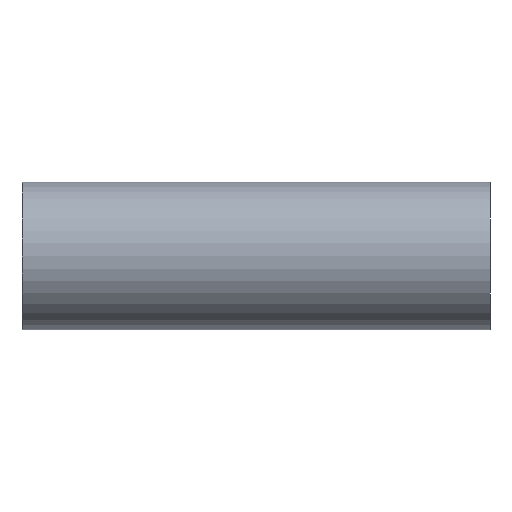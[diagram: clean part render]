
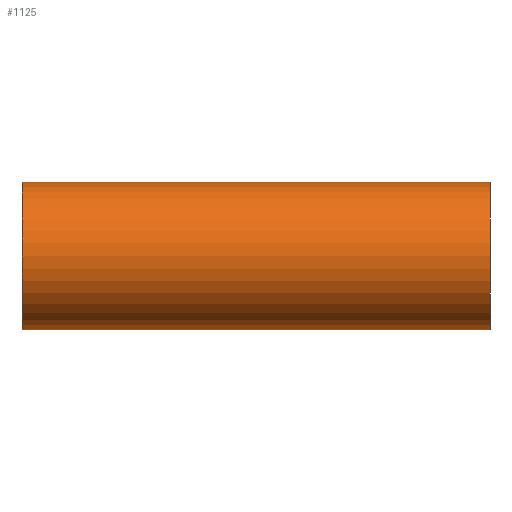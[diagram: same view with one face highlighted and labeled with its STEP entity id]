
A CAD part, front view. The second image highlights one B-rep face of the part: STEP entity #1125.
In plain terms, the highlighted cylindrical face has radius 19.05 mm (diameter 38.1 mm), a partial arc.
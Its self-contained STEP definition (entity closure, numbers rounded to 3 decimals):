
#39 = VECTOR ( 'NONE', #1269, 1000. ) ;
#96 = CIRCLE ( 'NONE', #443, 19.05 ) ;
#114 = DIRECTION ( 'NONE',  ( 1., 0., 0. ) ) ;
#159 = VERTEX_POINT ( 'NONE', #1072 ) ;
#168 = EDGE_CURVE ( 'NONE', #159, #1270, #1017, .T. ) ;
#184 = DIRECTION ( 'NONE',  ( 1., 0., 0. ) ) ;
#227 = CARTESIAN_POINT ( 'NONE',  ( -60.3, 0., 19.05 ) ) ;
#258 = EDGE_CURVE ( 'NONE', #271, #159, #1002, .T. ) ;
#271 = VERTEX_POINT ( 'NONE', #705 ) ;
#324 = DIRECTION ( 'NONE',  ( 0., 0., -1. ) ) ;
#345 = ORIENTED_EDGE ( 'NONE', *, *, #1305, .T. ) ;
#386 = LINE ( 'NONE', #227, #775 ) ;
#437 = CARTESIAN_POINT ( 'NONE',  ( 60.3, 0., 19.05 ) ) ;
#443 = AXIS2_PLACEMENT_3D ( 'NONE', #531, #184, #324 ) ;
#479 = CARTESIAN_POINT ( 'NONE',  ( -60.3, 0., -19.05 ) ) ;
#527 = EDGE_LOOP ( 'NONE', ( #760, #345, #1278, #788 ) ) ;
#531 = CARTESIAN_POINT ( 'NONE',  ( -60.3, 0., 0. ) ) ;
#624 = AXIS2_PLACEMENT_3D ( 'NONE', #697, #710, #691 ) ;
#667 = VERTEX_POINT ( 'NONE', #916 ) ;
#691 = DIRECTION ( 'NONE',  ( 0., 0., -1. ) ) ;
#697 = CARTESIAN_POINT ( 'NONE',  ( -60.3, 0., 0. ) ) ;
#705 = CARTESIAN_POINT ( 'NONE',  ( -60.3, 0., -19.05 ) ) ;
#710 = DIRECTION ( 'NONE',  ( 1., 0., 0. ) ) ;
#760 = ORIENTED_EDGE ( 'NONE', *, *, #1227, .F. ) ;
#775 = VECTOR ( 'NONE', #114, 1000. ) ;
#788 = ORIENTED_EDGE ( 'NONE', *, *, #168, .T. ) ;
#798 = FACE_OUTER_BOUND ( 'NONE', #527, .T. ) ;
#916 = CARTESIAN_POINT ( 'NONE',  ( -60.3, 0., 19.05 ) ) ;
#936 = CYLINDRICAL_SURFACE ( 'NONE', #624, 19.05 ) ;
#973 = CARTESIAN_POINT ( 'NONE',  ( 60.3, 0., 0. ) ) ;
#1002 = LINE ( 'NONE', #479, #39 ) ;
#1003 = DIRECTION ( 'NONE',  ( 0., 0., -1. ) ) ;
#1017 = CIRCLE ( 'NONE', #1327, 19.05 ) ;
#1072 = CARTESIAN_POINT ( 'NONE',  ( 60.3, 0., -19.05 ) ) ;
#1125 = ADVANCED_FACE ( 'NONE', ( #798 ), #936, .T. ) ;
#1227 = EDGE_CURVE ( 'NONE', #667, #1270, #386, .T. ) ;
#1269 = DIRECTION ( 'NONE',  ( 1., 0., 0. ) ) ;
#1270 = VERTEX_POINT ( 'NONE', #437 ) ;
#1278 = ORIENTED_EDGE ( 'NONE', *, *, #258, .T. ) ;
#1305 = EDGE_CURVE ( 'NONE', #667, #271, #96, .T. ) ;
#1327 = AXIS2_PLACEMENT_3D ( 'NONE', #973, #1347, #1003 ) ;
#1347 = DIRECTION ( 'NONE',  ( -1., 0., 0. ) ) ;
